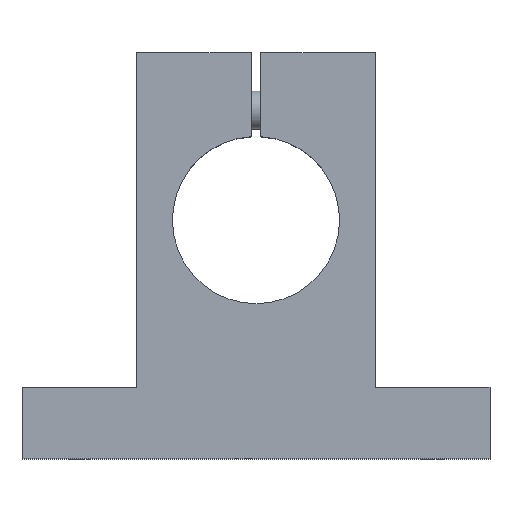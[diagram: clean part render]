
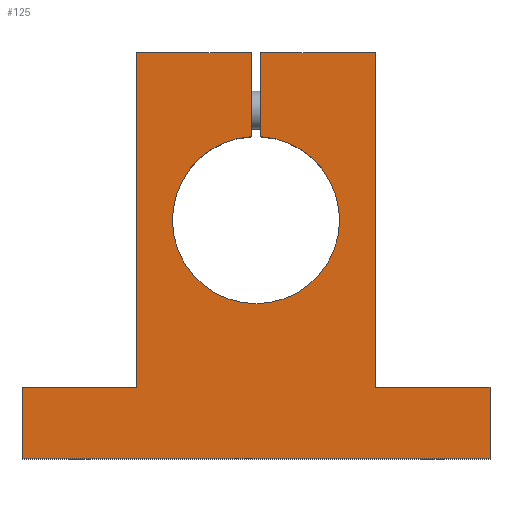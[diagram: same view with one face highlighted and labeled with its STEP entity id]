
A CAD part, top view. The second image highlights one B-rep face of the part: STEP entity #125.
In plain terms, the highlighted planar face has unit normal (0, 0, 1).
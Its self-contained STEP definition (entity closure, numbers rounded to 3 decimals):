
#125=ADVANCED_FACE('',(#163),#164,.T.);
#163=FACE_OUTER_BOUND('',#251,.T.);
#164=PLANE('',#252);
#251=EDGE_LOOP('',(#349,#350,#351,#352,#353,#354,#355,#356,#357,#358,#359,#360));
#252=AXIS2_PLACEMENT_3D('',#361,#362,#363);
#349=ORIENTED_EDGE('',*,*,#585,.F.);
#350=ORIENTED_EDGE('',*,*,#583,.F.);
#351=ORIENTED_EDGE('',*,*,#586,.F.);
#352=ORIENTED_EDGE('',*,*,#587,.F.);
#353=ORIENTED_EDGE('',*,*,#588,.F.);
#354=ORIENTED_EDGE('',*,*,#589,.F.);
#355=ORIENTED_EDGE('',*,*,#590,.T.);
#356=ORIENTED_EDGE('',*,*,#579,.F.);
#357=ORIENTED_EDGE('',*,*,#591,.F.);
#358=ORIENTED_EDGE('',*,*,#592,.F.);
#359=ORIENTED_EDGE('',*,*,#593,.T.);
#360=ORIENTED_EDGE('',*,*,#594,.F.);
#361=CARTESIAN_POINT('',(0.,0.0,32.0));
#362=DIRECTION('',(0.0,0.0,1.0));
#363=DIRECTION('',(1.0,0.0,0.0));
#579=EDGE_CURVE('',#651,#653,#654,.T.);
#583=EDGE_CURVE('',#659,#661,#662,.T.);
#585=EDGE_CURVE('',#661,#664,#665,.T.);
#586=EDGE_CURVE('',#666,#659,#667,.T.);
#587=EDGE_CURVE('',#668,#666,#669,.T.);
#588=EDGE_CURVE('',#670,#668,#671,.T.);
#589=EDGE_CURVE('',#672,#670,#673,.T.);
#590=EDGE_CURVE('',#672,#653,#674,.T.);
#591=EDGE_CURVE('',#675,#651,#676,.T.);
#592=EDGE_CURVE('',#677,#675,#678,.T.);
#593=EDGE_CURVE('',#677,#679,#680,.T.);
#594=EDGE_CURVE('',#664,#679,#681,.T.);
#651=VERTEX_POINT('',#774);
#653=VERTEX_POINT('',#777);
#654=LINE('',#778,#779);
#659=VERTEX_POINT('',#786);
#661=VERTEX_POINT('',#789);
#662=LINE('',#790,#791);
#664=VERTEX_POINT('',#794);
#665=LINE('',#795,#796);
#666=VERTEX_POINT('',#797);
#667=LINE('',#798,#799);
#668=VERTEX_POINT('',#800);
#669=LINE('',#801,#802);
#670=VERTEX_POINT('',#803);
#671=LINE('',#804,#805);
#672=VERTEX_POINT('',#806);
#673=LINE('',#807,#808);
#674=LINE('',#809,#810);
#675=VERTEX_POINT('',#811);
#676=CIRCLE('',#812,17.5);
#677=VERTEX_POINT('',#813);
#678=LINE('',#814,#815);
#679=VERTEX_POINT('',#816);
#680=LINE('',#817,#818);
#681=LINE('',#819,#820);
#774=CARTESIAN_POINT('',(1.0,17.471,32.0));
#777=CARTESIAN_POINT('',(1.,35.0,32.0));
#778=CARTESIAN_POINT('',(1.,17.471,32.0));
#779=VECTOR('',#980,1.0);
#786=CARTESIAN_POINT('',(-49.0,-50.0,32.0));
#789=CARTESIAN_POINT('',(-49.0,-35.0,32.0));
#790=CARTESIAN_POINT('',(-49.0,-50.0,32.0));
#791=VECTOR('',#984,1.0);
#794=CARTESIAN_POINT('',(-25.0,-35.0,32.0));
#795=CARTESIAN_POINT('',(-49.0,-35.0,32.0));
#796=VECTOR('',#986,1.0);
#797=CARTESIAN_POINT('',(49.0,-50.0,32.0));
#798=CARTESIAN_POINT('',(49.0,-50.0,32.0));
#799=VECTOR('',#987,1.0);
#800=CARTESIAN_POINT('',(49.0,-35.0,32.0));
#801=CARTESIAN_POINT('',(49.0,-35.0,32.0));
#802=VECTOR('',#988,1.0);
#803=CARTESIAN_POINT('',(25.0,-35.0,32.0));
#804=CARTESIAN_POINT('',(25.0,-35.0,32.0));
#805=VECTOR('',#989,1.0);
#806=CARTESIAN_POINT('',(25.0,35.0,32.0));
#807=CARTESIAN_POINT('',(25.0,32.0,32.0));
#808=VECTOR('',#990,1.0);
#809=CARTESIAN_POINT('',(25.0,35.0,32.0));
#810=VECTOR('',#991,1.0);
#811=CARTESIAN_POINT('',(-1.,17.471,32.0));
#812=AXIS2_PLACEMENT_3D('',#992,#993,#994);
#813=CARTESIAN_POINT('',(-1.,35.0,32.0));
#814=CARTESIAN_POINT('',(-1.,32.0,32.0));
#815=VECTOR('',#995,1.0);
#816=CARTESIAN_POINT('',(-25.0,35.0,32.0));
#817=CARTESIAN_POINT('',(-1.,35.0,32.0));
#818=VECTOR('',#996,1.0);
#819=CARTESIAN_POINT('',(-25.0,-35.0,32.0));
#820=VECTOR('',#997,1.0);
#980=DIRECTION('',(0.0,1.0,0.0));
#984=DIRECTION('',(0.0,1.0,0.0));
#986=DIRECTION('',(1.0,0.0,0.0));
#987=DIRECTION('',(-1.0,0.0,0.0));
#988=DIRECTION('',(0.0,-1.0,0.0));
#989=DIRECTION('',(1.0,0.0,0.0));
#990=DIRECTION('',(0.0,-1.0,0.0));
#991=DIRECTION('',(-1.0,0.0,0.0));
#992=CARTESIAN_POINT('',(0.,0.0,32.0));
#993=DIRECTION('',(0.0,0.0,1.0));
#994=DIRECTION('',(1.0,0.0,0.0));
#995=DIRECTION('',(0.0,-1.0,0.0));
#996=DIRECTION('',(-1.0,0.0,0.0));
#997=DIRECTION('',(0.0,1.0,0.0));
